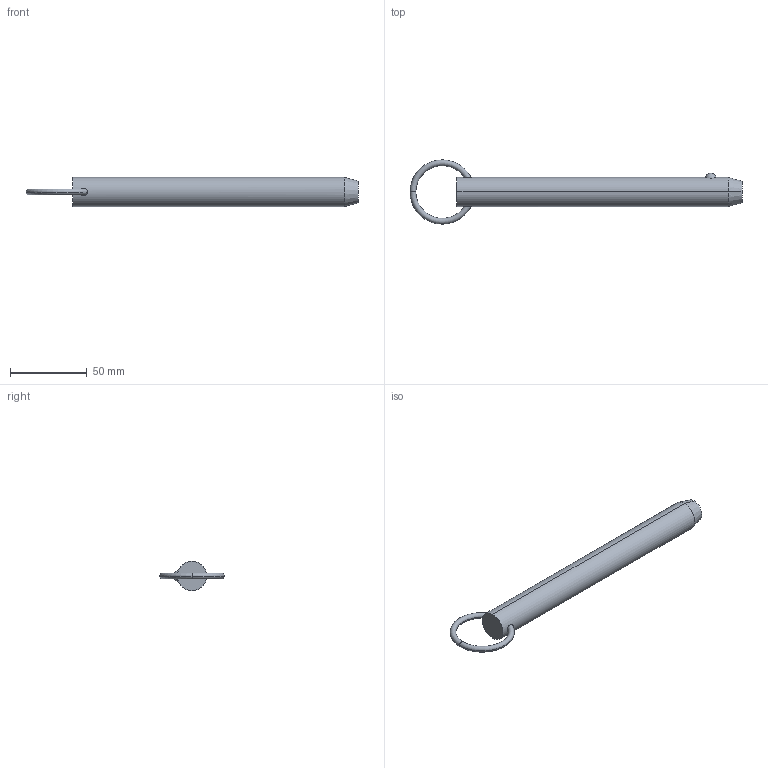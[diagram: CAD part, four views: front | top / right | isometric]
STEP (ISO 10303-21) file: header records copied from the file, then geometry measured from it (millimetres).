
FILE_DESCRIPTION (( 'STEP AP203' ), '1' );
FILE_NAME ('33010.W7560.step', '2024-11-01T10:44:44', ( '' ), ( '' ), 'SwSTEP 2.0', 'SolidWorks 2019', '' );
FILE_SCHEMA (( 'CONFIG_CONTROL_DESIGN' ));
Length unit declared in the file: millimetre
Products named in the file (3): Part2_33010.W7560; Part1_33010.W7560; 33010.W7560
Assembly tree (2 placements, depth 2):
  33010.W7560
    Part1_33010.W7560
    Part2_33010.W7560
Bounding box: 216.35 x 41.91 x 19.05 mm (x, y, z)
Volume: 53438.2 mm3; surface area: 13224.2 mm2
Topology: 2 solids, 2 shells, 16 faces, 31 edges, 18 vertices
Faces by surface type: torus 8, sphere 2, cone 2, cylinder 2, plane 2
Entity records: 893 total; most frequent: CARTESIAN_POINT 250, DIRECTION 88, ORIENTED_EDGE 62, AXIS2_PLACEMENT_3D 42, EDGE_CURVE 31, PERSON_AND_ORGANIZATION 26, CIRCLE 21, DATE_AND_TIME 19
